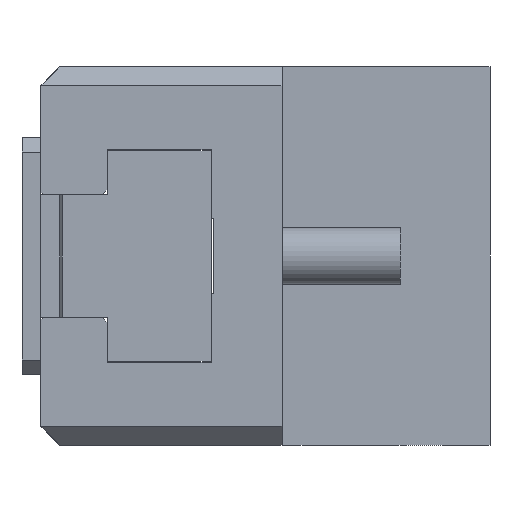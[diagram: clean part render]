
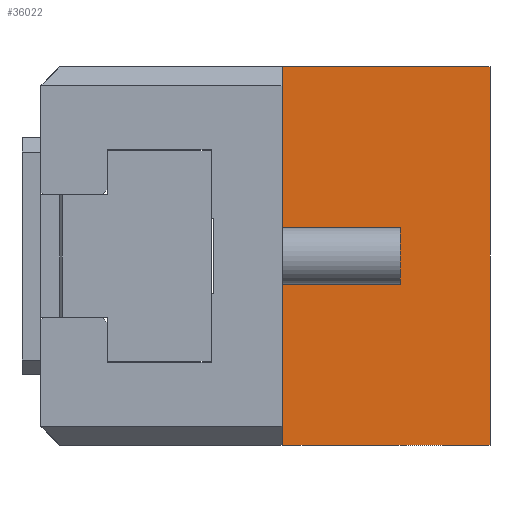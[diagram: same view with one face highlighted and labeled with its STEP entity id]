
A CAD part, left-side view. The second image highlights one B-rep face of the part: STEP entity #36022.
In plain terms, the highlighted planar face has unit normal (-1, 0, 0).
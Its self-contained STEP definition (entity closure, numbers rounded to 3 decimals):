
#1204 = VECTOR ( 'NONE', #36853, 1000. ) ;
#2415 = CARTESIAN_POINT ( 'NONE',  ( -70., 44., 40. ) ) ;
#4787 = CARTESIAN_POINT ( 'NONE',  ( -70., 44., 40. ) ) ;
#6080 = DIRECTION ( 'NONE',  ( 1., 0., 0. ) ) ;
#7244 = CARTESIAN_POINT ( 'NONE',  ( -70., 44., -40. ) ) ;
#7918 = AXIS2_PLACEMENT_3D ( 'NONE', #13685, #6080, #33202 ) ;
#13685 = CARTESIAN_POINT ( 'NONE',  ( -70., 44., 40. ) ) ;
#15175 = EDGE_CURVE ( 'NONE', #21429, #15733, #33568, .T. ) ;
#15733 = VERTEX_POINT ( 'NONE', #7244 ) ;
#16216 = ORIENTED_EDGE ( 'NONE', *, *, #15175, .T. ) ;
#16543 = VECTOR ( 'NONE', #30061, 1000. ) ;
#17750 = LINE ( 'NONE', #18351, #16543 ) ;
#17931 = LINE ( 'NONE', #42632, #50074 ) ;
#18351 = CARTESIAN_POINT ( 'NONE',  ( -70., 44., 40. ) ) ;
#21429 = VERTEX_POINT ( 'NONE', #4787 ) ;
#22950 = ORIENTED_EDGE ( 'NONE', *, *, #25989, .F. ) ;
#23265 = VECTOR ( 'NONE', #37317, 1000. ) ;
#24053 = VERTEX_POINT ( 'NONE', #30758 ) ;
#25989 = EDGE_CURVE ( 'NONE', #21429, #33607, #17750, .T. ) ;
#26278 = CARTESIAN_POINT ( 'NONE',  ( -70., 0., 40. ) ) ;
#30061 = DIRECTION ( 'NONE',  ( 0., -1., 0. ) ) ;
#30248 = EDGE_CURVE ( 'NONE', #15733, #24053, #34543, .T. ) ;
#30758 = CARTESIAN_POINT ( 'NONE',  ( -70., 0., -40. ) ) ;
#32963 = CARTESIAN_POINT ( 'NONE',  ( -70., 44., -40. ) ) ;
#33202 = DIRECTION ( 'NONE',  ( 0., 0., -1. ) ) ;
#33568 = LINE ( 'NONE', #2415, #23265 ) ;
#33607 = VERTEX_POINT ( 'NONE', #26278 ) ;
#34543 = LINE ( 'NONE', #32963, #1204 ) ;
#36022 = ADVANCED_FACE ( 'NONE', ( #48255 ), #48606, .F. ) ;
#36430 = EDGE_CURVE ( 'NONE', #24053, #33607, #17931, .T. ) ;
#36853 = DIRECTION ( 'NONE',  ( 0., -1., 0. ) ) ;
#37317 = DIRECTION ( 'NONE',  ( 0., 0., -1. ) ) ;
#42632 = CARTESIAN_POINT ( 'NONE',  ( -70., 0., 40. ) ) ;
#42758 = ORIENTED_EDGE ( 'NONE', *, *, #36430, .T. ) ;
#46516 = DIRECTION ( 'NONE',  ( 0., 0., 1. ) ) ;
#47033 = ORIENTED_EDGE ( 'NONE', *, *, #30248, .T. ) ;
#48255 = FACE_OUTER_BOUND ( 'NONE', #49394, .T. ) ;
#48606 = PLANE ( 'NONE',  #7918 ) ;
#49394 = EDGE_LOOP ( 'NONE', ( #42758, #22950, #16216, #47033 ) ) ;
#50074 = VECTOR ( 'NONE', #46516, 1000. ) ;
